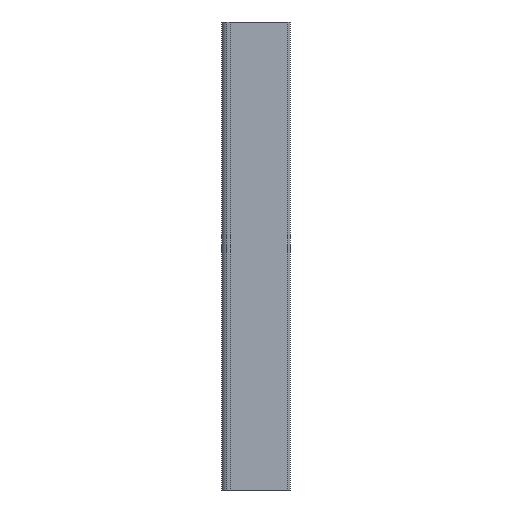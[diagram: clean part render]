
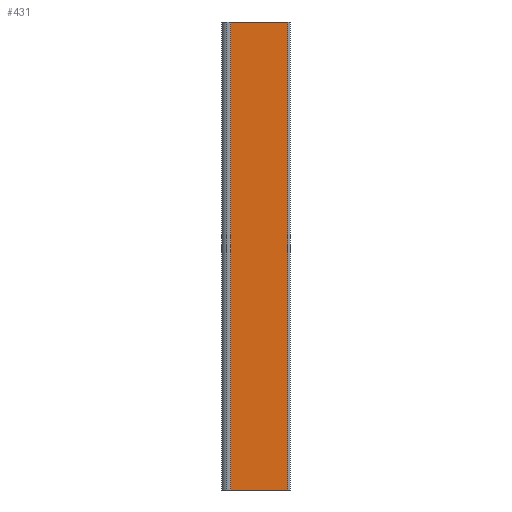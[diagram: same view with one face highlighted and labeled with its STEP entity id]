
A CAD part, left-side view. The second image highlights one B-rep face of the part: STEP entity #431.
In plain terms, the highlighted planar face has unit normal (-1, 0, 0).
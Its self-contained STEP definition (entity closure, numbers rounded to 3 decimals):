
#27 = VECTOR ( 'NONE', #1177, 1000. ) ;
#28 = LINE ( 'NONE', #1176, #27 ) ;
#76 = ORIENTED_EDGE ( 'NONE', *, *, #834, .F. ) ;
#79 = ORIENTED_EDGE ( 'NONE', *, *, #923, .T. ) ;
#83 = ORIENTED_EDGE ( 'NONE', *, *, #793, .F. ) ;
#86 = ORIENTED_EDGE ( 'NONE', *, *, #843, .T. ) ;
#103 = EDGE_LOOP ( 'NONE', ( #86, #76, #83, #79 ) ) ;
#114 = LINE ( 'NONE', #1070, #214 ) ;
#151 = LINE ( 'NONE', #982, #165 ) ;
#165 = VECTOR ( 'NONE', #988, 1000. ) ;
#204 = LINE ( 'NONE', #1082, #211 ) ;
#211 = VECTOR ( 'NONE', #1095, 1000. ) ;
#214 = VECTOR ( 'NONE', #1073, 1000. ) ;
#234 = VERTEX_POINT ( 'NONE', #311 ) ;
#253 = VERTEX_POINT ( 'NONE', #329 ) ;
#264 = VERTEX_POINT ( 'NONE', #340 ) ;
#272 = VERTEX_POINT ( 'NONE', #348 ) ;
#311 = CARTESIAN_POINT ( 'NONE',  ( -8.945, -78.967, 618. ) ) ;
#329 = CARTESIAN_POINT ( 'NONE',  ( -8.945, -3.6, 618. ) ) ;
#340 = CARTESIAN_POINT ( 'NONE',  ( -8.945, -3.6, 0. ) ) ;
#348 = CARTESIAN_POINT ( 'NONE',  ( -8.945, -78.967, 0. ) ) ;
#405 = PLANE ( 'NONE',  #958 ) ;
#408 = CARTESIAN_POINT ( 'NONE',  ( -8.945, -3.6, 618. ) ) ;
#431 = ADVANCED_FACE ( 'NONE', ( #690 ), #405, .F. ) ;
#460 = DIRECTION ( 'NONE',  ( 1., 0., 0. ) ) ;
#461 = DIRECTION ( 'NONE',  ( 0., 1., 0. ) ) ;
#690 = FACE_OUTER_BOUND ( 'NONE', #103, .T. ) ;
#793 = EDGE_CURVE ( 'NONE', #253, #234, #151, .T. ) ;
#834 = EDGE_CURVE ( 'NONE', #234, #272, #114, .T. ) ;
#843 = EDGE_CURVE ( 'NONE', #264, #272, #204, .T. ) ;
#923 = EDGE_CURVE ( 'NONE', #253, #264, #28, .T. ) ;
#958 = AXIS2_PLACEMENT_3D ( 'NONE', #408, #460, #461 ) ;
#982 = CARTESIAN_POINT ( 'NONE',  ( -8.945, -3.6, 618. ) ) ;
#988 = DIRECTION ( 'NONE',  ( 0., -1., 0. ) ) ;
#1070 = CARTESIAN_POINT ( 'NONE',  ( -8.945, -78.967, 618. ) ) ;
#1073 = DIRECTION ( 'NONE',  ( 0., 0., -1. ) ) ;
#1082 = CARTESIAN_POINT ( 'NONE',  ( -8.945, -3.6, 0. ) ) ;
#1095 = DIRECTION ( 'NONE',  ( 0., -1., 0. ) ) ;
#1176 = CARTESIAN_POINT ( 'NONE',  ( -8.945, -3.6, 618. ) ) ;
#1177 = DIRECTION ( 'NONE',  ( 0., 0., -1. ) ) ;
